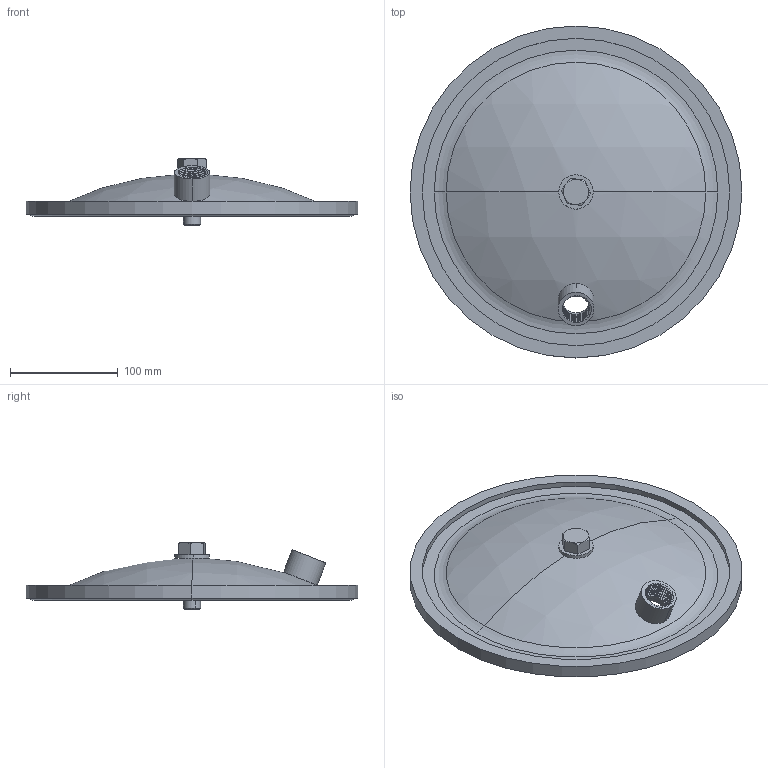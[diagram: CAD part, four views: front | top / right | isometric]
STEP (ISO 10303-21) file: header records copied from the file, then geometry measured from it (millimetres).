
FILE_DESCRIPTION (( 'STEP AP203' ), '1' );
FILE_NAME ('REC12KS.STEP', '2015-01-07T19:56:00', ( '' ), ( '' ), 'SwSTEP 2.0', 'SolidWorks 2014', '' );
FILE_SCHEMA (( 'CONFIG_CONTROL_DESIGN' ));
Length unit declared in the file: inch
Products named in the file (1): REC12KS
Bounding box: 307.59 x 307.59 x 62.08 mm (x, y, z)
Volume: 497332.1 mm3; surface area: 242084.5 mm2
Topology: 5 solids, 5 shells, 92 faces, 211 edges, 134 vertices
Faces by surface type: cylinder 48, plane 22, torus 8, cone 8, sphere 4, bspline 2
Entity records: 4212 total; most frequent: CARTESIAN_POINT 2128, ORIENTED_EDGE 422, DIRECTION 421, EDGE_CURVE 211, AXIS2_PLACEMENT_3D 178, VERTEX_POINT 134, EDGE_LOOP 107, FACE_OUTER_BOUND 92
